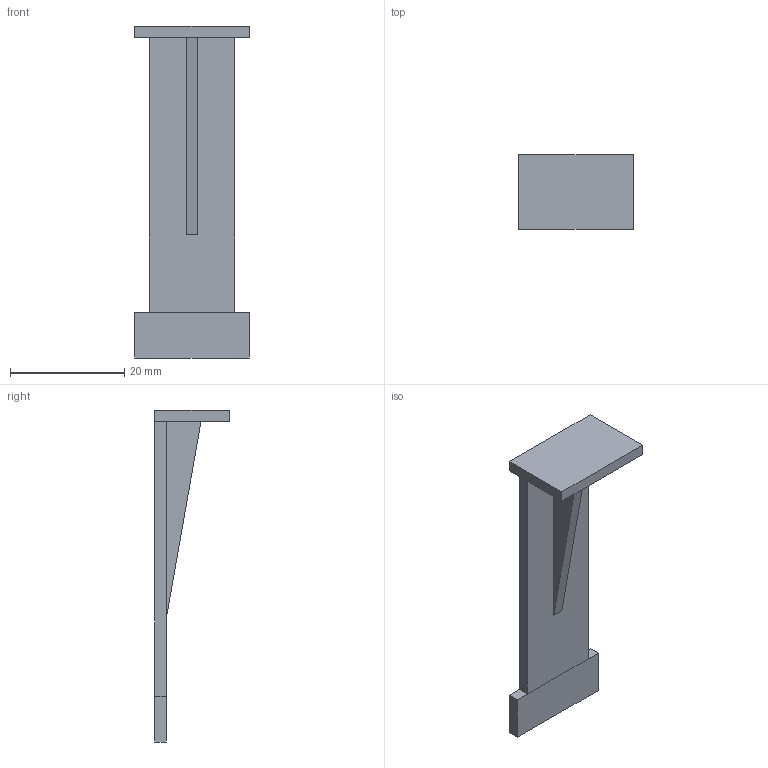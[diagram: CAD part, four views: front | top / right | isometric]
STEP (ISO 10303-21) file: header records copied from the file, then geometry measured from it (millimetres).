
FILE_DESCRIPTION (( 'STEP AP214' ), '1' );
FILE_NAME ('002389.STEP', '2022-02-21T08:20:49', ( '' ), ( '' ), 'SwSTEP 2.0', 'SolidWorks 2021', '' );
FILE_SCHEMA (( 'AUTOMOTIVE_DESIGN' ));
Length unit declared in the file: millimetre
Products named in the file (1): 002389
Bounding box: 20 x 13 x 58 mm (x, y, z)
Volume: 2489.5 mm3; surface area: 2914.4 mm2
Topology: 2 solids, 2 shells, 19 faces, 45 edges, 30 vertices
Faces by surface type: plane 19
Entity records: 582 total; most frequent: CARTESIAN_POINT 95, ORIENTED_EDGE 90, DIRECTION 85, EDGE_CURVE 45, LINE 45, VECTOR 45, VERTEX_POINT 30, AXIS2_PLACEMENT_3D 20
